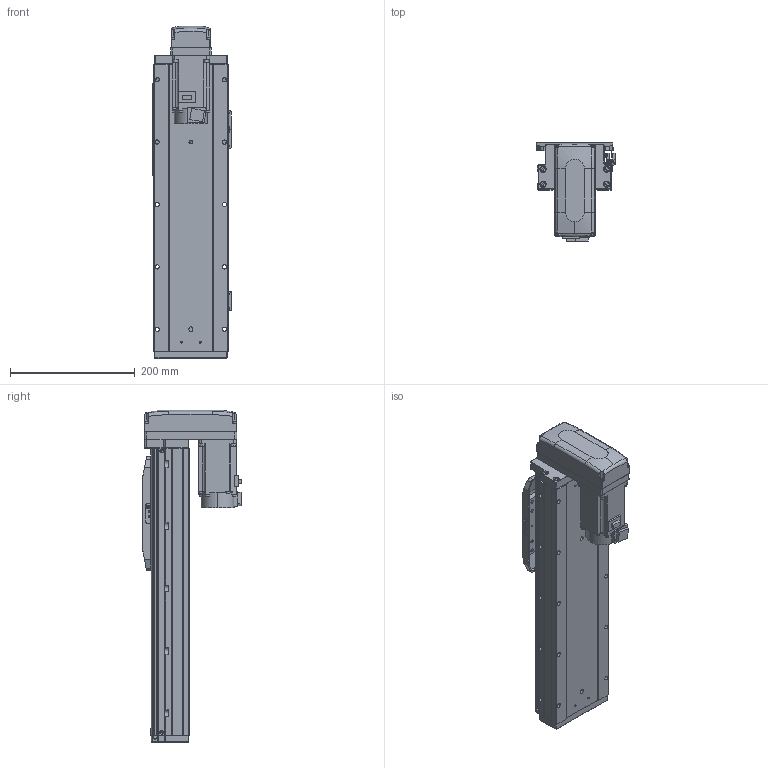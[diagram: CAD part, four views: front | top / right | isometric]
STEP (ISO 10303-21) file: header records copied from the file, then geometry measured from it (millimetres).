
FILE_DESCRIPTION (( 'STEP AP203' ), '1' );
FILE_NAME ('GTH12-250-BM-M40-C4.step', '2022-09-29T02:00:41', ( '微软用户' ), ( '微软中国' ), 'SwSTEP 2.0', 'SolidWorks 2020', '' );
FILE_SCHEMA (( 'CONFIG_CONTROL_DESIGN' ));
Length unit declared in the file: millimetre
Products named in the file (18): BTH-M3X5X6; GTH120-001_250; GBT 70.3-M3℅8; hg-kn43j_-s100_; GTH120-003; GTH80-022; CTHA86-033_M40B; GTH120-006; GTH80-028; GTH120-027-1_GTH120-027-2; GTH120-004; GTH50-023; GTH12-250-BM-M40-C4; GTH120-013; GTH50-024; GBT 70.1-M3℅6; GBT96.1-2002 3×0.8; GBT 70.1-M5×16
Assembly tree (59 placements, depth 2):
  GTH12-250-BM-M40-C4
    GTH120-001_250
    GTH120-003
    GTH120-006
    GTH120-004
    GTH120-013
    GBT 70.1-M3℅6  x14
    GBT 70.1-M5×16  x10
    GBT 70.3-M3℅8  x4
    GTH80-022
    GTH80-028  x2
    GTH50-023  x3
    GTH50-024  x3
    GBT96.1-2002 3×0.8  x6
    BTH-M3X5X6  x8
    hg-kn43j_-s100_
    CTHA86-033_M40B
    GTH120-027-1_GTH120-027-2
Bounding box: 125.7 x 159.8 x 532 mm (x, y, z)
Volume: 4255779.8 mm3; surface area: 459468.9 mm2
Topology: 61 solids, 61 shells, 2359 faces, 5472 edges, 3355 vertices
Faces by surface type: plane 1230, cylinder 665, cone 276, torus 174, sphere 8, bspline 6
Entity records: 42990 total; most frequent: CARTESIAN_POINT 7316, DIRECTION 7068, ORIENTED_EDGE 6554, EDGE_CURVE 3277, AXIS2_PLACEMENT_3D 2472, VECTOR 2124, LINE 2124, VERTEX_POINT 2076
